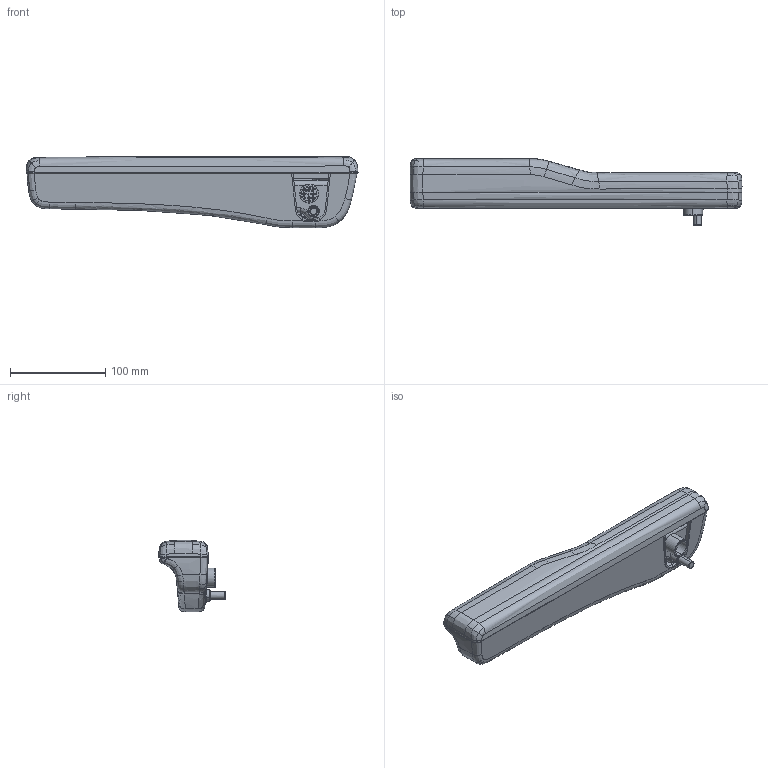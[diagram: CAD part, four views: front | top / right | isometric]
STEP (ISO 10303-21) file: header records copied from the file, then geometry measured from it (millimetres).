
FILE_DESCRIPTION(('CATIA V5 STEP Exchange'),'2;1');
FILE_NAME('E:\福田轻卡项目\01-M4中期改款项目\13、设计变更\ECR0009544----扶手形状变更\SLT0011989.stp','2023-10-09T02:14:07+00:00',('none'),('none'),'CATIA Version 5 Release 20 GA (IN-10)','CATIA V5 STEP AP214','none');
FILE_SCHEMA(('AUTOMOTIVE_DESIGN { 1 0 10303 214 1 1 1 1 }'));
Products named in the file (1): AL59-6872000
Bounding box: 348.62 x 70.13 x 75.3 mm (x, y, z)
Volume: 438001.4 mm3; surface area: 213797.1 mm2
Topology: 11 solids, 11 shells, 2450 faces, 7473 edges, 5080 vertices
Faces by surface type: plane 968, bspline 853, cylinder 414, extrusion 74, revolution 72, torus 53, sphere 11, cone 5
Entity records: 110306 total; most frequent: CARTESIAN_POINT 54752, ORIENTED_EDGE 14924, EDGE_CURVE 7462, DIRECTION 6133, VERTEX_POINT 5080, B_SPLINE_CURVE_WITH_KNOTS 4262, VECTOR 2721, LINE 2647
